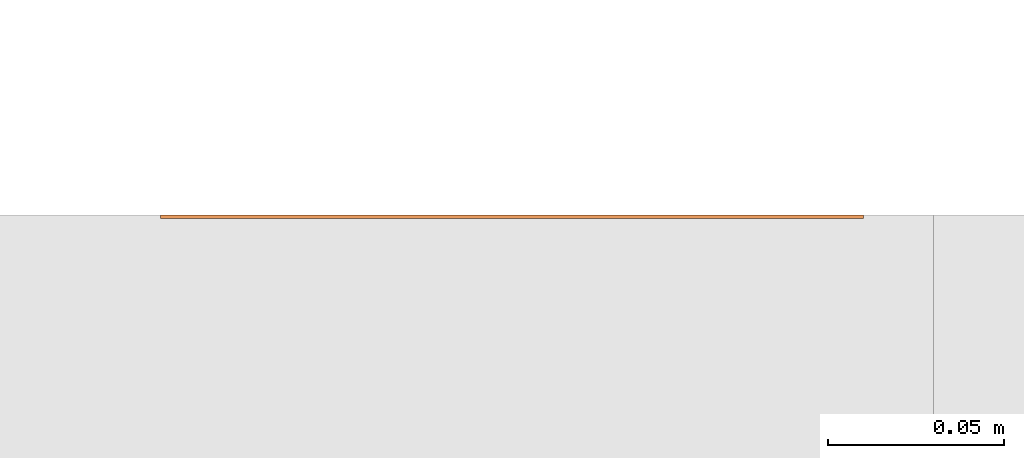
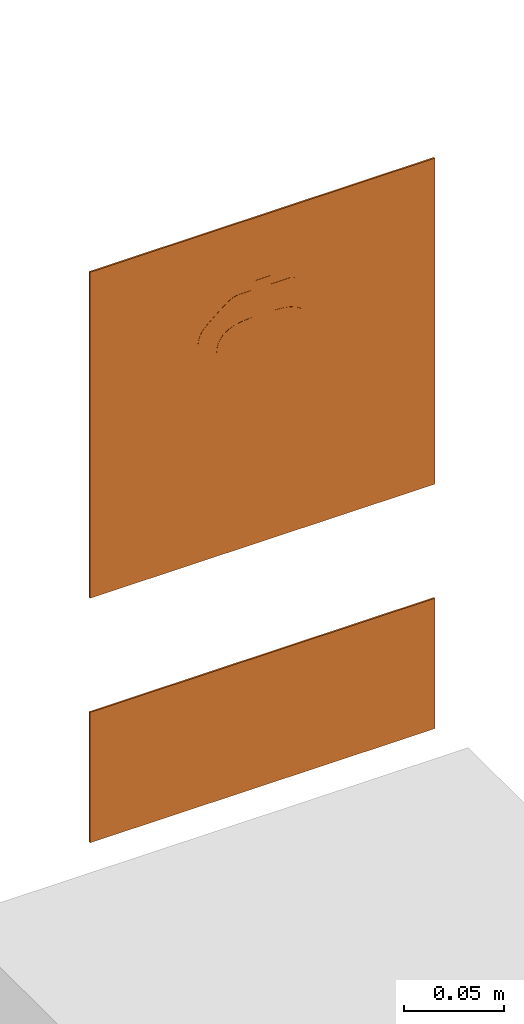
# One storey, part 109 of 119: 2 proxies.
"""IFC2X3 building model written with IfcOpenShell, lengths in metres."""

from ifc_helpers import new_model, entity, si_unit, converted_unit, derived_unit, direction, frame, frame_2d, origin, origin_2d_with_axis, place, context, subcontext, project, spatial, polyline, circle_curve, parameter, trimmed, segment, composite_curve, rectangle, outline, extrude, source, transform, mapped, material, material_list, type_object, type_shapes, element, save


model = new_model("IFC2X3")

# Units and contexts
model_context = context("Model", 3, precision=1e-05, world=origin(), true_north=direction((6.12303176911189e-17, 1.0)))
body_context = subcontext(model_context, "Body", "Model", "MODEL_VIEW")
ifc_project = project(units=[si_unit("LENGTHUNIT", "METRE"), si_unit("AREAUNIT", "SQUARE_METRE"), si_unit("VOLUMEUNIT", "CUBIC_METRE"), converted_unit("PLANEANGLEUNIT", "DEGREE", entity("IfcRatioMeasure", 0.0174532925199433), si_unit("PLANEANGLEUNIT", "RADIAN"), dimensions=[0, 0, 0, 0, 0, 0, 0]), si_unit("MASSUNIT", "GRAM", prefix="KILO"), derived_unit("MASSDENSITYUNIT", [(si_unit("MASSUNIT", "GRAM", prefix="KILO"), 1), (si_unit("LENGTHUNIT", "METRE"), -3)]), derived_unit("MOMENTOFINERTIAUNIT", [(si_unit("LENGTHUNIT", "METRE"), 4)]), si_unit("TIMEUNIT", "SECOND"), si_unit("FREQUENCYUNIT", "HERTZ"), si_unit("THERMODYNAMICTEMPERATUREUNIT", "DEGREE_CELSIUS"), derived_unit("THERMALTRANSMITTANCEUNIT", [(si_unit("MASSUNIT", "GRAM", prefix="KILO"), 1), (si_unit("THERMODYNAMICTEMPERATUREUNIT", "KELVIN"), -1), (si_unit("TIMEUNIT", "SECOND"), -3)]), derived_unit("VOLUMETRICFLOWRATEUNIT", [(si_unit("LENGTHUNIT", "METRE"), 3), (si_unit("TIMEUNIT", "SECOND"), -1)]), si_unit("ELECTRICCURRENTUNIT", "AMPERE"), si_unit("ELECTRICVOLTAGEUNIT", "VOLT"), si_unit("POWERUNIT", "WATT"), si_unit("FORCEUNIT", "NEWTON", prefix="KILO"), si_unit("ILLUMINANCEUNIT", "LUX"), si_unit("LUMINOUSFLUXUNIT", "LUMEN"), si_unit("LUMINOUSINTENSITYUNIT", "CANDELA"), derived_unit("USERDEFINED", [(si_unit("MASSUNIT", "GRAM", prefix="KILO"), -1), (si_unit("LENGTHUNIT", "METRE"), -2), (si_unit("TIMEUNIT", "SECOND"), 3), (si_unit("LUMINOUSFLUXUNIT", "LUMEN"), 1)]), derived_unit("LINEARVELOCITYUNIT", [(si_unit("LENGTHUNIT", "METRE"), 1), (si_unit("TIMEUNIT", "SECOND"), -1)]), si_unit("PRESSUREUNIT", "PASCAL"), derived_unit("USERDEFINED", [(si_unit("LENGTHUNIT", "METRE"), -2), (si_unit("MASSUNIT", "GRAM", prefix="KILO"), 1), (si_unit("TIMEUNIT", "SECOND"), -2)]), derived_unit("LINEARFORCEUNIT", [(si_unit("MASSUNIT", "GRAM", prefix="KILO"), 1), (si_unit("LENGTHUNIT", "METRE"), 1), (si_unit("TIMEUNIT", "SECOND"), -2), (si_unit("LENGTHUNIT", "METRE"), -1)]), derived_unit("PLANARFORCEUNIT", [(si_unit("MASSUNIT", "GRAM", prefix="KILO"), 1), (si_unit("LENGTHUNIT", "METRE"), 1), (si_unit("TIMEUNIT", "SECOND"), -2), (si_unit("LENGTHUNIT", "METRE"), -2)])], contexts=[model_context])

# Site, building, storey
site_placement = place(None, origin())
site = spatial("IfcSite", under=ifc_project, at=site_placement, Name="Default", CompositionType="ELEMENT")
building_placement = place(site_placement, origin())
building = spatial("IfcBuilding", under=site, at=building_placement, CompositionType="ELEMENT")
storey_placement = place(building_placement, origin())
storey = spatial("IfcBuildingStorey", under=building, at=storey_placement, Name="PAV. 01 - TÉRREO", CompositionType="ELEMENT", Elevation=0.0)

# Proxies
ifc_material_1 = material(Name="Plastico branco")
ifc_material_2 = material(Name="Plastico vermelho")
ifc_material_list_1 = material_list([ifc_material_1, ifc_material_2])
building_element_proxy_type_1 = type_object("IfcBuildingElementProxyType", Name="Sinalização de equipamentos - E05 - Extintor de incêndio:Distância 08m", PredefinedType="NOTDEFINED", material=ifc_material_1)
shared_shape_1 = source(origin(), body_context, "Body", "SweptSolid", [
    extrude(outline(composite_curve([segment(polyline([(-0.039533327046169, -0.0988107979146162), (0.0136590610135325, -0.0988107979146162)]), True, "CONTINUOUS"), segment(polyline([(0.0136590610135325, -0.0988107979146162), (0.0136590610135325, -0.0150548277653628)]), True, "CONTINUOUS"), segment(polyline([(0.0136590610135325, -0.0150548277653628), (0.0132403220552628, -0.0112272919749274)]), True, "CONTINUOUS"), segment(polyline([(0.0132403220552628, -0.0112272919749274), (0.0119841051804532, -0.00798860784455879)]), True, "CONTINUOUS"), segment(polyline([(0.0119841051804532, -0.00798860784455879), (0.00989041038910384, -0.00533877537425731)]), True, "CONTINUOUS"), segment(polyline([(0.00989041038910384, -0.00533877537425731), (0.00695923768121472, -0.00327779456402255)]), True, "CONTINUOUS"), segment(polyline([(0.00695923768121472, -0.00327779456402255), (0.00319058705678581, -0.00180566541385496)]), True, "CONTINUOUS"), segment(polyline([(0.00319058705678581, -0.00180566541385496), (-0.00141554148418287, -0.000922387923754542)]), True, "CONTINUOUS"), segment(polyline([(-0.00141554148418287, -0.000922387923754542), (-0.00685914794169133, -0.000627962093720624)]), True, "CONTINUOUS"), segment(polyline([(-0.00685914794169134, -0.000627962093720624), (-0.00685914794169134, 0.00837547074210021)]), True, "CONTINUOUS"), segment(polyline([(-0.00685914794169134, 0.00837547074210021), (0.000568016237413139, 0.00837547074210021)]), True, "CONTINUOUS"), segment(polyline([(0.000568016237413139, 0.00837547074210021), (0.021500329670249, -0.0075875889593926)]), True, "CONTINUOUS"), segment(polyline([(0.021500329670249, -0.0075875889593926), (0.021500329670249, -0.0104328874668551)]), True, "CONTINUOUS"), segment(polyline([(0.021500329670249, -0.0104328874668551), (0.0245059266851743, -0.0104328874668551)]), True, "CONTINUOUS"), segment(polyline([(0.0245059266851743, -0.0104328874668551), (0.0245059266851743, -0.00811335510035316)]), True, "CONTINUOUS"), segment(polyline([(0.0245059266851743, -0.00811335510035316), (0.0243642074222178, -0.00545038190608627)]), True, "CONTINUOUS"), segment(polyline([(0.0243642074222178, -0.00545038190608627), (0.0239570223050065, -0.0032112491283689)]), True, "CONTINUOUS"), segment(polyline([(0.0239570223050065, -0.0032112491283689), (0.0233113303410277, -0.00132119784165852)]), True, "CONTINUOUS"), segment(polyline([(0.0233113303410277, -0.00132119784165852), (0.0224540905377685, 0.00029453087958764)]), True, "CONTINUOUS"), segment(polyline([(0.0224540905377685, 0.00029453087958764), (0.0214122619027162, 0.00171069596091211)]), True, "CONTINUOUS"), segment(polyline([(0.0214122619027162, 0.00171069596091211), (0.0202128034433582, 0.00300205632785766)]), True, "CONTINUOUS"), segment(polyline([(0.0202128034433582, 0.00300205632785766), (0.0188826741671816, 0.00424337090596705)]), True, "CONTINUOUS"), segment(polyline([(0.0188826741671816, 0.00424337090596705), (0.0144021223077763, 0.00811180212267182)]), True, "CONTINUOUS"), segment(polyline([(0.0144021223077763, 0.00811180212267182), (0.0113518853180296, 0.0106145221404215)]), True, "CONTINUOUS"), segment(polyline([(0.0113518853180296, 0.0106145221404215), (0.0085825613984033, 0.0127576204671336)]), True, "CONTINUOUS"), segment(polyline([(0.0085825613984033, 0.0127576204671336), (0.00738733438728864, 0.0136170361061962)]), True, "CONTINUOUS"), segment(polyline([(0.00738733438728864, 0.0136170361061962), (0.00631521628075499, 0.0143235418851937)]), True, "CONTINUOUS"), segment(polyline([(0.00631521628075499, 0.0143235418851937), (0.00532850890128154, 0.0148903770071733)]), True, "CONTINUOUS"), segment(polyline([(0.00532850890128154, 0.0148903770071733), (0.00438926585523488, 0.0153309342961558)]), True, "CONTINUOUS"), segment(polyline([(0.00438926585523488, 0.0153309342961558), (0.00345954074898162, 0.0156586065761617)]), True, "CONTINUOUS"), segment(polyline([(0.00345954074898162, 0.0156586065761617), (0.00250138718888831, 0.0158867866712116)]), True, "CONTINUOUS"), segment(polyline([(0.00250138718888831, 0.0158867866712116), (0.00144087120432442, 0.0160289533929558)]), True, "CONTINUOUS"), segment(polyline([(0.00144087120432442, 0.0160289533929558), (-0.000108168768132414, 0.0160993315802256)]), True, "CONTINUOUS"), segment(polyline([(-0.000108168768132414, 0.0160993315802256), (-0.00685914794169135, 0.0160831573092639)]), True, "CONTINUOUS"), segment(polyline([(-0.00685914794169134, 0.0160831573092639), (-0.00685914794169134, 0.0213863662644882)]), True, "CONTINUOUS"), segment(polyline([(-0.00685914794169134, 0.0213863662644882), (-0.0177728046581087, 0.0213863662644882)]), True, "CONTINUOUS"), segment(polyline([(-0.0177728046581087, 0.0213863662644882), (-0.0177728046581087, 0.0160831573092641)]), True, "CONTINUOUS"), segment(polyline([(-0.0177728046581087, 0.0160831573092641), (-0.0288467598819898, 0.0160831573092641)]), True, "CONTINUOUS"), segment(trimmed(circle_curve(frame_2d((-0.0288467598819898, 0.0122293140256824), x_axis=(-1.0, 0.0)), 0.00385384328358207), [parameter(270.0)], [parameter(90.0000000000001)], True, "PARAMETER"), True, "CONTINUOUS"), segment(polyline([(-0.0288467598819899, 0.00837547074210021), (-0.0190151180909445, 0.00837547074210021)]), True, "CONTINUOUS"), segment(polyline([(-0.0190151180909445, 0.00837547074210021), (-0.0190151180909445, -0.000627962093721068)]), True, "CONTINUOUS"), segment(polyline([(-0.0190151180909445, -0.000627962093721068), (-0.024458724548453, -0.000922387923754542)]), True, "CONTINUOUS"), segment(polyline([(-0.024458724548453, -0.000922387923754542), (-0.0290648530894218, -0.00180566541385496)]), True, "CONTINUOUS"), segment(polyline([(-0.0290648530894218, -0.00180566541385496), (-0.0328335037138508, -0.00327779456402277)]), True, "CONTINUOUS"), segment(polyline([(-0.0328335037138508, -0.00327779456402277), (-0.03576467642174, -0.00533877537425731)]), True, "CONTINUOUS"), segment(polyline([(-0.03576467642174, -0.00533877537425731), (-0.0378583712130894, -0.00798860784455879)]), True, "CONTINUOUS"), segment(polyline([(-0.0378583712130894, -0.00798860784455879), (-0.0391145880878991, -0.0112272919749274)]), True, "CONTINUOUS"), segment(polyline([(-0.0391145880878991, -0.0112272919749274), (-0.039533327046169, -0.0150548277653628)]), True, "CONTINUOUS"), segment(polyline([(-0.039533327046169, -0.0150548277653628), (-0.039533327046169, -0.0988107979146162)]), True, "CONTINUOUS")], self_intersect=False)), frame((-0.0129371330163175, -0.0011, 1.94006139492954), z_axis=(0.0, 1.0, 0.0), x_axis=(-1.0, 0.0, 0.0)), (0.0, 0.0, 1.0), 0.0011),
    extrude(rectangle(XDim=0.001, YDim=0.179, at=origin_2d_with_axis()), frame((0.0, -0.0005, 1.8105), z_axis=(0.0, 0.0, 1.0), x_axis=(0.0, 1.0, 0.0)), (0.0, 0.0, 1.0), 0.179),
    extrude(outline(polyline([(-0.100000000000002, -0.1), (0.100000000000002, -0.1), (0.100000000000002, 0.1), (-0.100000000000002, 0.1), (-0.100000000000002, -0.1)]), holes=[polyline([(-0.0895000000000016, -0.0895000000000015), (-0.0895000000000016, 0.0894999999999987), (0.0894999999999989, 0.0894999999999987), (0.0894999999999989, -0.0895000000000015), (-0.0895000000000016, -0.0895000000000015)])]), frame((0.0, -0.001, 1.9), z_axis=(0.0, 1.0, 0.0), x_axis=(0.0, 0.0, -1.0)), (0.0, 0.0, 1.0), 0.001),
])
type_shapes(building_element_proxy_type_1, [shared_shape_1])
proxy_1_placement = place(storey_placement, frame((-7.82667890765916, 70.193337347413, 0.0)))
element("IfcBuildingElementProxy", 1, at=proxy_1_placement, inside=storey, type_object=building_element_proxy_type_1, material=ifc_material_list_1, Name="Sinalização de equipamentos - E05 - Extintor de incêndio:Distância 08m", ObjectType="Sinalização de equipamentos - E05 - Extintor de incêndio:Distância 08m", context=body_context, shape_type="MappedRepresentation", body=[
    mapped(shared_shape_1, transform((0.0, 0.0, 0.0), scale=1.0)),
])
ifc_material_3 = material(Name="Plastico Preto")
ifc_material_4 = material(Name="Plastico azul claro")
ifc_material_5 = material(Name="Plastico Verde")
ifc_material_list_2 = material_list([ifc_material_3, ifc_material_4, ifc_material_2, ifc_material_1, ifc_material_5])
building_element_proxy_type_2 = type_object("IfcBuildingElementProxyType", Name="Sinalização de equipamentos - E05 - Extintor de incêndio - TIPO 2:Placa de extintor - E6-A", PredefinedType="NOTDEFINED", material=ifc_material_3)
shared_shape_2 = source(origin(), body_context, "Body", "SweptSolid", [
    extrude(rectangle(XDim=0.001, YDim=0.0243464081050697, at=origin_2d_with_axis()), frame((0.0791678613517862, -0.0005, 0.0143679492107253), z_axis=(0.0, 0.0, 1.0), x_axis=(0.0, 1.0, 0.0)), (0.0, 0.0, 1.0), 0.0243153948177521),
    extrude(rectangle(XDim=0.001, YDim=0.0243464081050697, at=origin_2d_with_axis()), frame((0.0514092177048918, -0.0005, 0.0143679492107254), z_axis=(0.0, 0.0, 1.0), x_axis=(0.0, 1.0, 0.0)), (0.0, 0.0, 1.0), 0.0243153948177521),
    extrude(rectangle(XDim=0.001, YDim=0.0243464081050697, at=origin_2d_with_axis()), frame((0.023605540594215, -0.0005, 0.0143679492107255), z_axis=(0.0, 0.0, 1.0), x_axis=(0.0, 1.0, 0.0)), (0.0, 0.0, 1.0), 0.0243153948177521),
    extrude(rectangle(XDim=0.001, YDim=0.0243464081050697, at=origin_2d_with_axis()), frame((-0.00415310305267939, -0.0005, 0.0143679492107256), z_axis=(0.0, 0.0, 1.0), x_axis=(0.0, 1.0, 0.0)), (0.0, 0.0, 1.0), 0.0243153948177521),
    extrude(outline(polyline([(-0.0399999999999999, -0.1), (0.0399999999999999, -0.1), (0.0399999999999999, 0.1), (-0.0399999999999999, 0.1), (-0.0399999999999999, -0.1)]), holes=[polyline([(-0.0319999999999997, 0.091), (-0.0150022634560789, 0.091), (-0.0150022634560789, -0.091), (-0.0319999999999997, -0.091), (-0.0319999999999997, 0.091)]), polyline([(-0.010791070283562, 0.091), (0.0319999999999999, 0.091), (0.0319999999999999, 0.0473282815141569), (-0.010791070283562, 0.0473282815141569), (-0.010791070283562, 0.091)]), polyline([(0.00131665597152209, 0.0441091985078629), (0.0256320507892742, 0.0441091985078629), (0.0256320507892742, 0.0197627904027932), (0.00131665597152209, 0.0197627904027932), (0.00131665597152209, 0.0441091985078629)]), polyline([(0.00131665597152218, 0.0163263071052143), (0.0256320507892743, 0.0163263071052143), (0.0256320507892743, -0.00802010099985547), (0.00131665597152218, -0.00802010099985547), (0.00131665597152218, 0.0163263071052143)]), polyline([(0.00131665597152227, -0.0114323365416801), (0.0256320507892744, -0.0114323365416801), (0.0256320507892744, -0.0357787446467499), (0.00131665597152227, -0.0357787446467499), (0.00131665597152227, -0.0114323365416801)]), polyline([(0.00131665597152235, -0.0635824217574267), (0.00131665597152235, -0.039236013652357), (0.0256320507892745, -0.039236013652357), (0.0256320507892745, -0.0635824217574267), (0.00131665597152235, -0.0635824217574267)]), polyline([(0.00131665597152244, -0.0669946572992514), (0.0256320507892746, -0.0669946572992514), (0.0256320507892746, -0.091), (0.00131665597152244, -0.091), (0.00131665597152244, -0.0669946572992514)])]), frame((0.0, -0.001, 0.0399999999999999), z_axis=(0.0, 1.0, 0.0), x_axis=(0.0, 0.0, -1.0)), (0.0, 0.0, 1.0), 0.001),
    extrude(outline(composite_curve([segment(trimmed(circle_curve(frame_2d((-0.00182713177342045, 0.0030692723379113), x_axis=(1.0, 0.0)), 0.00333179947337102), [parameter(180.0)], [parameter(270.0)], True, "PARAMETER"), True, "CONTINUOUS"), segment(polyline([(-0.00182713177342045, -0.000262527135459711), (-0.000430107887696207, -0.000262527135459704)]), True, "CONTINUOUS"), segment(polyline([(-0.000430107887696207, -0.000262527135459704), (-0.000430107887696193, -0.00350797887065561)]), True, "CONTINUOUS"), segment(polyline([(-0.000430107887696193, -0.00350797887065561), (-0.00249820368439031, -0.00350797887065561)]), True, "CONTINUOUS"), segment(polyline([(-0.00249820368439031, -0.00350797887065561), (-0.00742535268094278, 7.18044171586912e-05)]), True, "CONTINUOUS"), segment(polyline([(-0.00742535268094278, 7.18044171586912e-05), (-0.00742535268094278, 0.00166630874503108)]), True, "CONTINUOUS"), segment(polyline([(-0.00742535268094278, 0.00166630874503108), (-0.00871124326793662, 0.00166630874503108)]), True, "CONTINUOUS"), segment(polyline([(-0.00871124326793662, 0.00166630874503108), (-0.00846384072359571, -0.00134355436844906)]), True, "CONTINUOUS"), segment(trimmed(circle_curve(frame_2d((-0.00608099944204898, -0.00114769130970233), x_axis=(1.0, 0.0)), 0.00239087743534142), [parameter(184.698993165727)], [parameter(232.0)], True, "PARAMETER"), True, "CONTINUOUS"), segment(polyline([(-0.00755297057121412, -0.00303172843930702), (-0.0030496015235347, -0.00655014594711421)]), True, "CONTINUOUS"), segment(polyline([(-0.0030496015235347, -0.00655014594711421), (-0.000124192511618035, -0.00655014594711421)]), True, "CONTINUOUS"), segment(polyline([(-0.000124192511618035, -0.00655014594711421), (-0.000124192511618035, -0.00788602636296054)]), True, "CONTINUOUS"), segment(polyline([(-0.000124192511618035, -0.00788602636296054), (0.003207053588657, -0.00788602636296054)]), True, "CONTINUOUS"), segment(polyline([(0.003207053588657, -0.00788602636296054), (0.003207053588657, -0.00698801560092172)]), True, "CONTINUOUS"), segment(polyline([(0.003207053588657, -0.00698801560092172), (0.00540783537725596, -0.00698801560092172)]), True, "CONTINUOUS"), segment(polyline([(0.00540783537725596, -0.00698801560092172), (0.00665542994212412, -0.00574042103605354)]), True, "CONTINUOUS"), segment(polyline([(0.00665542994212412, -0.00574042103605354), (0.00665542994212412, -0.00450724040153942)]), True, "CONTINUOUS"), segment(polyline([(0.00665542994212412, -0.00450724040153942), (0.00491919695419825, -0.00324579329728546)]), True, "CONTINUOUS"), segment(polyline([(0.00491919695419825, -0.00324579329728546), (0.00355615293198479, -0.00324579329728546)]), True, "CONTINUOUS"), segment(polyline([(0.00355615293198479, -0.00324579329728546), (0.00355615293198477, -0.000262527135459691)]), True, "CONTINUOUS"), segment(polyline([(0.00355615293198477, -0.000262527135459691), (0.00500257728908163, -0.000262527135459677)]), True, "CONTINUOUS"), segment(trimmed(circle_curve(frame_2d((0.00500257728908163, 0.00284153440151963), x_axis=(1.0, 0.0)), 0.00310406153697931), [parameter(270.0)], [parameter(1.52666624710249e-13)], True, "PARAMETER"), True, "CONTINUOUS"), segment(polyline([(0.00810663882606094, 0.00284153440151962), (0.0081066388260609, 0.0313568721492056)]), True, "CONTINUOUS"), segment(polyline([(0.0081066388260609, 0.0313568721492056), (-0.00515893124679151, 0.0313568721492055)]), True, "CONTINUOUS"), segment(polyline([(-0.00515893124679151, 0.0313568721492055), (-0.00515893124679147, 0.00306927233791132)]), True, "CONTINUOUS")], self_intersect=False)), frame((-0.0705753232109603, -0.001, 0.0413479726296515), z_axis=(0.0, 1.0, 0.0), x_axis=(1.0, 0.0, 0.0)), (0.0, 0.0, 1.0), 0.001),
    extrude(rectangle(XDim=0.001, YDim=0.0243464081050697, at=origin_2d_with_axis()), frame((-0.0319359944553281, -0.0005, 0.0143679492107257), z_axis=(0.0, 0.0, 1.0), x_axis=(0.0, 1.0, 0.0)), (0.0, 0.0, 1.0), 0.0243153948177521),
    extrude(outline(polyline([(-0.0218358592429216, -0.021395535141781), (0.0218358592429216, -0.021395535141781), (0.0218358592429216, 0.021395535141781), (-0.0218358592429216, 0.021395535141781), (-0.0218358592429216, -0.021395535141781)]), holes=[composite_curve([segment(polyline([(-0.00669545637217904, -0.0194044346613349), (-0.00669545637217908, 0.00911090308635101)]), True, "CONTINUOUS"), segment(trimmed(circle_curve(frame_2d((-0.00359139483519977, 0.00911090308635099), x_axis=(-1.0, 0.0)), 0.00310406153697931), [parameter(270.0)], [parameter(360.0)], True, "PARAMETER"), False, "CONTINUOUS"), segment(polyline([(-0.0035913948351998, 0.0122149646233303), (-0.00214497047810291, 0.0122149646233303)]), True, "CONTINUOUS"), segment(polyline([(-0.00214497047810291, 0.0122149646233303), (-0.00214497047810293, 0.0151982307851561)]), True, "CONTINUOUS"), segment(polyline([(-0.00214497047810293, 0.0151982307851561), (-0.0035080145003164, 0.0151982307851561)]), True, "CONTINUOUS"), segment(polyline([(-0.0035080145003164, 0.0151982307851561), (-0.00524424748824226, 0.01645967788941)]), True, "CONTINUOUS"), segment(polyline([(-0.00524424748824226, 0.01645967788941), (-0.00524424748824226, 0.0176928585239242)]), True, "CONTINUOUS"), segment(polyline([(-0.00524424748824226, 0.0176928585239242), (-0.0039966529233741, 0.0189404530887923)]), True, "CONTINUOUS"), segment(polyline([(-0.0039966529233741, 0.0189404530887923), (-0.00179587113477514, 0.0189404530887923)]), True, "CONTINUOUS"), segment(polyline([(-0.00179587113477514, 0.0189404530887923), (-0.00179587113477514, 0.0198384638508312)]), True, "CONTINUOUS"), segment(polyline([(-0.00179587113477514, 0.0198384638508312), (0.00153537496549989, 0.0198384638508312)]), True, "CONTINUOUS"), segment(polyline([(0.00153537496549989, 0.0198384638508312), (0.00153537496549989, 0.0185025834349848)]), True, "CONTINUOUS"), segment(polyline([(0.00153537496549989, 0.0185025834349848), (0.00446078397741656, 0.0185025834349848)]), True, "CONTINUOUS"), segment(polyline([(0.00446078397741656, 0.0185025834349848), (0.00896415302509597, 0.0149841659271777)]), True, "CONTINUOUS"), segment(trimmed(circle_curve(frame_2d((0.00749218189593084, 0.0131001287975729), x_axis=(-1.0, 0.0)), 0.00239087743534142), [parameter(184.698993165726)], [parameter(231.999999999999)], True, "PARAMETER"), False, "CONTINUOUS"), segment(polyline([(0.00987502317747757, 0.0132959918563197), (0.0101224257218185, 0.0102861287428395)]), True, "CONTINUOUS"), segment(polyline([(0.0101224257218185, 0.0102861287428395), (0.00883653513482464, 0.0102861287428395)]), True, "CONTINUOUS"), segment(polyline([(0.00883653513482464, 0.0102861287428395), (0.00883653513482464, 0.0118806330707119)]), True, "CONTINUOUS"), segment(polyline([(0.00883653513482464, 0.0118806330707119), (0.00390938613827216, 0.0154604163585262)]), True, "CONTINUOUS"), segment(polyline([(0.00390938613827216, 0.0154604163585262), (0.00184129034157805, 0.0154604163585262)]), True, "CONTINUOUS"), segment(polyline([(0.00184129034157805, 0.0154604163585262), (0.00184129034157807, 0.0122149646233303)]), True, "CONTINUOUS"), segment(polyline([(0.00184129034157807, 0.0122149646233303), (0.00323831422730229, 0.0122149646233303)]), True, "CONTINUOUS"), segment(trimmed(circle_curve(frame_2d((0.00323831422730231, 0.00888316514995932), x_axis=(-1.0, 0.0)), 0.00333179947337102), [parameter(180.0)], [parameter(270.0)], True, "PARAMETER"), False, "CONTINUOUS"), segment(polyline([(0.00657011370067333, 0.00888316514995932), (0.00657011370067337, -0.0194044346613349)]), True, "CONTINUOUS"), segment(polyline([(0.00657011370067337, -0.0194044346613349), (-0.00669545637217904, -0.0194044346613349)]), True, "CONTINUOUS")], self_intersect=False)]), frame((-0.0691641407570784, -0.001, 0.0293955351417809), z_axis=(0.0, 1.0, 0.0), x_axis=(-1.0, 0.0, 0.0)), (0.0, 0.0, 1.0), 0.001),
    extrude(rectangle(XDim=0.001, YDim=0.182, at=origin_2d_with_axis()), frame((0.0, -0.0005, 0.0550022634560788), z_axis=(0.0, 0.0, 1.0), x_axis=(0.0, 1.0, 0.0)), (0.0, 0.0, 1.0), 0.0169977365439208),
])
type_shapes(building_element_proxy_type_2, [shared_shape_2])
proxy_2_placement = place(storey_placement, frame((-7.82667890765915, 70.193337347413, 1.65)))
element("IfcBuildingElementProxy", 2, at=proxy_2_placement, inside=storey, type_object=building_element_proxy_type_2, material=ifc_material_list_2, Name="Sinalização de equipamentos - E05 - Extintor de incêndio - TIPO 2:Placa de extintor - E6-A", ObjectType="Sinalização de equipamentos - E05 - Extintor de incêndio - TIPO 2:Placa de extintor - E6-A", context=body_context, shape_type="MappedRepresentation", body=[
    mapped(shared_shape_2, transform((0.0, 0.0, 0.0), scale=1.0)),
])

save(model, "model.ifc")
